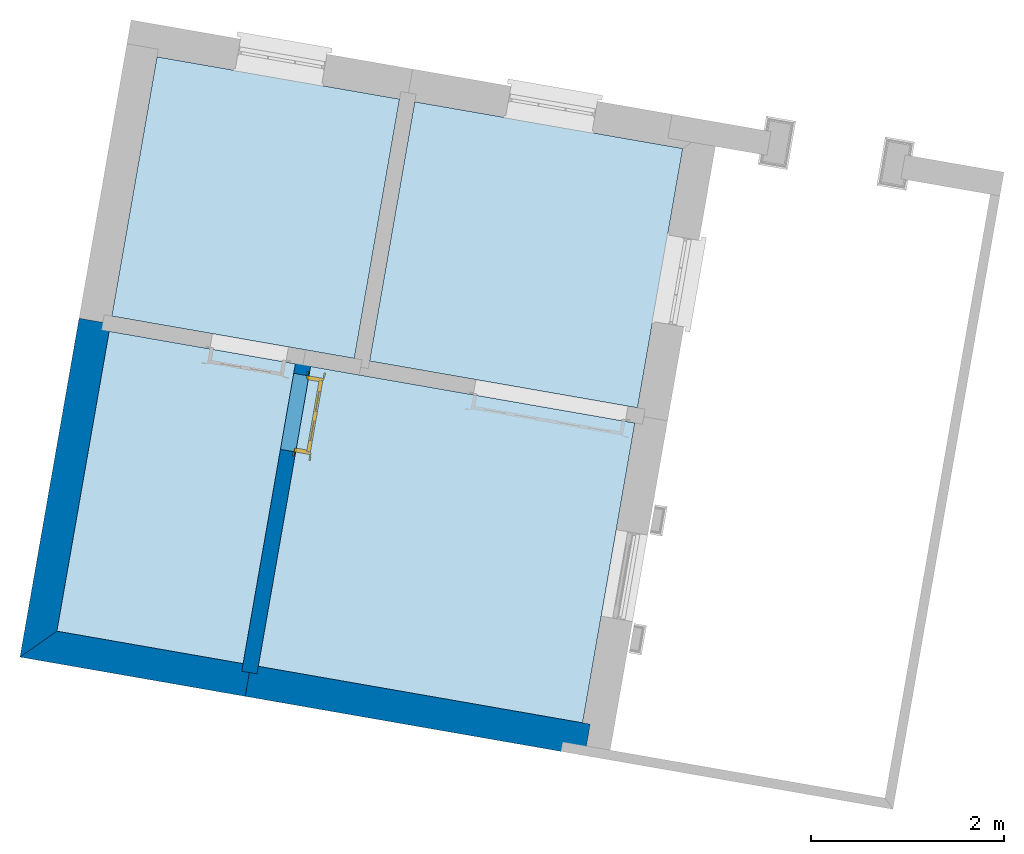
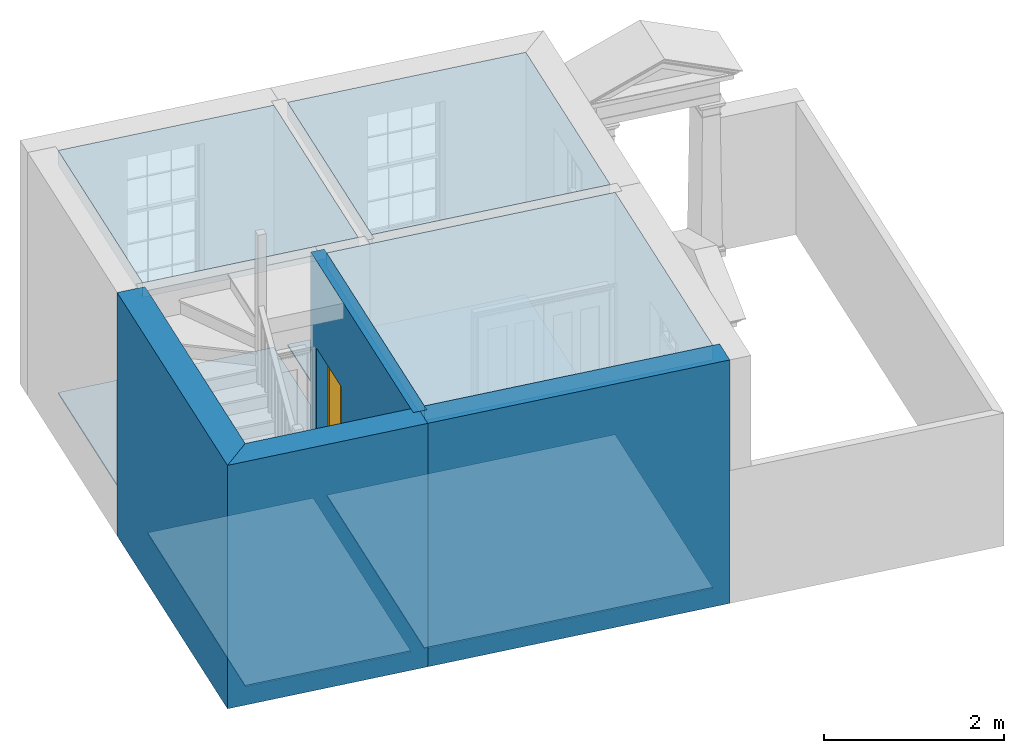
# One storey, part 1 of 6: 7 slabs, 4 walls, 1 door, 1 opening.
"""IFC4 building model written with IfcOpenShell, lengths in metres."""

from ifc_helpers import new_model, si_unit, frame, origin, origin_with_axes, place, context, subcontext, project, spatial, polyline, outline, extrude, faceted_brep, source, transform, mapped, material, layer, layer_set, layer_usage, type_object, type_shapes, element, fill, save


model = new_model("IFC4")

# Units and contexts
model_context = context("Model", 3, world=origin_with_axes())
body_context = subcontext(model_context, "Body", "Model", "MODEL_VIEW")
ifc_project = project(units=[si_unit("PLANEANGLEUNIT", "RADIAN"), si_unit("MASSUNIT", "GRAM", prefix="KILO"), si_unit("FORCEUNIT", "NEWTON", prefix="KILO"), si_unit("LENGTHUNIT", "METRE"), si_unit("AREAUNIT", "SQUARE_METRE"), si_unit("VOLUMEUNIT", "CUBIC_METRE")], contexts=[model_context, model_context])

# Sites, building, storey
site_1_placement = place(None, origin_with_axes())
site_1 = spatial("IfcSite", under=ifc_project, at=site_1_placement, Name="Tamar")
site_2_placement = place(site_1_placement, origin_with_axes())
site_2 = spatial("IfcSite", under=site_1, at=site_2_placement, Name="Site plot-27", CompositionType="ELEMENT")
building_placement = place(None, origin_with_axes())
building = spatial("IfcBuilding", under=site_2, at=building_placement, Name="Building plot-27", CompositionType="ELEMENT")
storey_placement = place(None, frame((0.0, 0.0, 26.0), z_axis=(0.0, 0.0, 1.0), x_axis=(1.0, 0.0, 0.0)))
storey = spatial("IfcBuildingStorey", under=building, at=storey_placement, Name="plot-27 0", CompositionType="ELEMENT", Elevation=26.0)

# Slabs
slab_1_placement = place(storey_placement, frame((297.107415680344, 271.453075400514, 3.1)))
element("IfcSlab", 1, at=slab_1_placement, inside=storey, Name="My Slab", ObjectType="Slab", PredefinedType="FLOOR", context=body_context, shape_type="SweptSolid", body=[
    extrude(outline(polyline([(0.0, 0.0), (-3.3601419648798, 0.585945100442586), (-3.90192639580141, -2.52095450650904), (-0.541784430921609, -3.10689960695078), (0.0, 0.0)])), origin_with_axes(), (0.0, 0.0, 1.0), 0.2),
])
slab_2_placement = place(storey_placement, frame((297.107415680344, 271.453075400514, 0.0)))
element("IfcSlab", 2, at=slab_2_placement, inside=storey, Name="My Slab", ObjectType="Slab", PredefinedType="FLOOR", context=body_context, shape_type="SweptSolid", body=[
    extrude(outline(polyline([(0.0, 0.0), (-3.3601419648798, 0.585945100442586), (-3.90192639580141, -2.52095450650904), (-0.541784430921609, -3.10689960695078), (0.0, 0.0)])), origin_with_axes(), (0.0, 0.0, 1.0), 0.02),
])
slab_3_placement = place(storey_placement, frame((297.603352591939, 274.297059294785, 3.1)))
element("IfcSlab", 3, at=slab_3_placement, inside=storey, Name="My Slab", ObjectType="Slab", PredefinedType="FLOOR", context=body_context, shape_type="SweptSolid", body=[
    extrude(outline(polyline([(0.0, 0.0), (-2.77679023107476, 0.484219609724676), (-3.24524095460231, -2.20214287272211), (-0.468450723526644, -2.68636248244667), (0.0, 0.0)])), origin_with_axes(), (0.0, 0.0, 1.0), 0.2),
])
slab_4_placement = place(storey_placement, frame((297.603352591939, 274.297059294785, 0.0)))
element("IfcSlab", 4, at=slab_4_placement, inside=storey, Name="My Slab", ObjectType="Slab", PredefinedType="FLOOR", context=body_context, shape_type="SweptSolid", body=[
    extrude(outline(polyline([(0.0, 0.0), (-2.77679023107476, 0.484219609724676), (-3.24524095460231, -2.20214287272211), (-0.468450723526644, -2.68636248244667), (0.0, 0.0)])), origin_with_axes(), (0.0, 0.0, 1.0), 0.02),
])
slab_5_placement = place(storey_placement, frame((294.66894094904, 274.808765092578, 3.1)))
element("IfcSlab", 5, at=slab_5_placement, inside=storey, Name="My Slab", ObjectType="Slab", PredefinedType="FLOOR", context=body_context, shape_type="SweptSolid", body=[
    extrude(outline(polyline([(0.0, 0.0), (-2.51306652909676, 0.438231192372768), (-2.98151725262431, -2.24813129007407), (-0.468450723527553, -2.68636248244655), (0.0, 0.0)])), origin_with_axes(), (0.0, 0.0, 1.0), 0.2),
])
slab_6_placement = place(storey_placement, frame((294.66894094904, 274.808765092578, 0.0)))
element("IfcSlab", 6, at=slab_6_placement, inside=storey, Name="My Slab", ObjectType="Slab", PredefinedType="FLOOR", context=body_context, shape_type="SweptSolid", body=[
    extrude(outline(polyline([(0.0, 0.0), (-2.51306652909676, 0.438231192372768), (-2.98151725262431, -2.24813129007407), (-0.468450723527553, -2.68636248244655), (0.0, 0.0)])), origin_with_axes(), (0.0, 0.0, 1.0), 0.02),
])
slab_7_placement = place(storey_placement, frame((293.58965230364, 272.066506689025, 0.0)))
element("IfcSlab", 7, at=slab_7_placement, inside=storey, Name="My Slab", ObjectType="Slab", PredefinedType="FLOOR", context=body_context, shape_type="SweptSolid", body=[
    extrude(outline(polyline([(0.0, 0.0), (-1.92971479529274, 0.336505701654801), (-2.47149922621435, -2.77039390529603), (-0.541784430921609, -3.10689960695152), (0.0, 0.0)])), origin_with_axes(), (0.0, 0.0, 1.0), 0.02),
])

# Walls
ifc_material_1 = material(Name="Masonry")
ifc_layer_1 = layer(ifc_material_1, 0.33, ventilated=False)
ifc_layer_set_1 = layer_set([ifc_layer_1], Name="party_0.08_0.25")
ifc_layer_usage_1 = layer_usage(ifc_layer_set_1, "AXIS2", "POSITIVE", -0.25)
wall_type_1 = type_object("IfcWallType", Name="party_0.08_0.25", PredefinedType="SOLIDWALL", material=ifc_layer_set_1)
wall_1_placement = place(storey_placement, frame((291.594869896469, 272.495566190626, 0.0), z_axis=(0.0, 0.0, 1.0), x_axis=(-0.171788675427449, -0.985133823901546, 0.0)))
element("IfcWall", 8, at=wall_1_placement, inside=storey, type_object=wall_type_1, material=ifc_layer_usage_1, Name="party", context=body_context, shape_type="SweptSolid", body=[
    extrude(outline(polyline([(2.7554362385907e-14, 0.0800000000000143), (-6.06028690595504e-14, -0.250000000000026), (3.5637843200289, -0.250000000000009), (3.23378432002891, 0.0799999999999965), (2.7554362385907e-14, 0.0800000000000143)])), origin_with_axes(), (0.0, 0.0, 1.0), 3.3),
])
wall_2_placement = place(storey_placement, frame((291.025599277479, 269.231045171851, 0.0), z_axis=(0.0, 0.0, 1.0), x_axis=(0.985133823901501, -0.171788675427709, 0.0)))
element("IfcWall", 9, at=wall_2_placement, inside=storey, type_object=wall_type_1, material=ifc_layer_usage_1, Name="party", context=body_context, shape_type="SweptSolid", body=[
    extrude(outline(polyline([(0.0799999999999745, 0.079999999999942), (-0.249999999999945, -0.250000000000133), (2.11883518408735, -0.250000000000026), (2.11883518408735, 0.0800000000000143), (0.0799999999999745, 0.079999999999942)])), origin_with_axes(), (0.0, 0.0, 1.0), 3.3),
])
wall_3_placement = place(storey_placement, frame((293.112935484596, 268.867053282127, 0.0), z_axis=(0.0, 0.0, 1.0), x_axis=(0.985133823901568, -0.171788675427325, 0.0)))
element("IfcWall", 10, at=wall_3_placement, inside=storey, type_object=wall_type_1, material=ifc_layer_usage_1, Name="party", context=body_context, shape_type="SweptSolid", body=[
    extrude(outline(polyline([(3.76814271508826e-14, 0.0800000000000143), (-9.21944352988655e-14, -0.250000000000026), (3.57084823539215, -0.250000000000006), (3.57084823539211, 0.0800000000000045), (3.76814271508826e-14, 0.0800000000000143)])), origin_with_axes(), (0.0, 0.0, 1.0), 3.3),
])

# Wall, opening, door
ifc_material_2 = material(Name="Masonry")
ifc_layer_2 = layer(ifc_material_2, 0.16, ventilated=False)
ifc_layer_set_2 = layer_set([ifc_layer_2], Name="interior_0.08_0.08")
ifc_layer_usage_2 = layer_usage(ifc_layer_set_2, "AXIS2", "POSITIVE", -0.08)
wall_type_2 = type_object("IfcWallType", Name="interior_0.08_0.08", PredefinedType="SOLIDWALL", material=ifc_layer_set_2)
wall_4_placement = place(storey_placement, frame((293.682206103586, 272.131574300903, 0.0), z_axis=(0.0, 0.0, 1.0), x_axis=(-0.171788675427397, -0.985133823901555, 0.0)))
wall_4 = element("IfcWall", 11, at=wall_4_placement, inside=storey, type_object=wall_type_2, material=ifc_layer_usage_2, Name="interior", context=body_context, shape_type="SweptSolid", body=[
    extrude(outline(polyline([(-2.41731487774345e-14, 0.0800000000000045), (2.41633516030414e-14, -0.0800000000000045), (3.31378432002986, -0.0800000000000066), (3.31378432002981, 0.0800000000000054), (-2.41731487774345e-14, 0.0800000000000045)])), origin_with_axes(), (0.0, 0.0, 1.0), 3.3),
])
opening_placement = place(wall_4_placement, frame((0.180000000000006, 0.0, 0.0199999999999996)))
opening = element("IfcOpeningElement", 12, at=opening_placement, cuts=wall_4, Name="My Opening", ObjectType="Opening", context=body_context, shape_type="SweptSolid", body=[
    extrude(outline(polyline([(0.0, -0.100000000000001), (0.800000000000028, -0.099999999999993), (0.800000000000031, 1.09999999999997), (2.74780198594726e-15, 1.09999999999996), (0.0, -0.100000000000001)])), origin_with_axes(), (0.0, 0.0, 1.0), 2.1),
])
door_type = type_object("IfcDoorType", Name="door_inside", OperationType="SINGLE_SWING_LEFT", PredefinedType="NOTDEFINED")
shared_shape = source(origin(), body_context, "Body", "Brep", [
    faceted_brep([(0.773, 0.33, 1.895), (0.66, 0.33, 1.895), (0.66, 0.33, 2.073), (0.773, 0.33, 2.073), (0.773, 0.33, 0.82), (0.66, 0.33, 0.82), (0.45, 0.33, 1.895), (0.45, 0.33, 2.073), (0.773, 0.33, 0.62), (0.66, 0.33, 0.62), (0.66, 0.315, 0.82), (0.66, 0.315, 1.895), (0.45, 0.315, 1.895), (0.35, 0.33, 1.895), (0.35, 0.33, 2.073), (0.773, 0.33, 0.225), (0.66, 0.33, 0.225), (0.45, 0.33, 0.62), (0.45, 0.33, 0.82), (0.45, 0.315, 0.82), (0.35, 0.33, 0.82), (0.14, 0.33, 2.073), (0.14, 0.33, 1.895), (0.773, 0.33, 0.0), (0.66, 0.33, 0.0), (0.66, 0.315, 0.225), (0.66, 0.315, 0.62), (0.45, 0.315, 0.62), (0.35, 0.33, 0.62), (0.35, 0.315, 0.82), (0.35, 0.315, 1.895), (0.14, 0.315, 1.895), (0.027, 0.33, 2.073), (0.027, 0.33, 1.895), (0.773, 0.292, 0.0), (0.66, 0.292, 0.0), (0.45, 0.33, 0.0), (0.45, 0.33, 0.225), (0.45, 0.315, 0.225), (0.35, 0.33, 0.225), (0.14, 0.33, 0.82), (0.14, 0.33, 0.62), (0.14, 0.315, 0.82), (0.027, 0.33, 0.82), (0.773, 0.292, 0.225), (0.66, 0.292, 0.225), (0.45, 0.292, 0.0), (0.35, 0.33, 0.0), (0.35, 0.315, 0.225), (0.35, 0.315, 0.62), (0.14, 0.315, 0.62), (0.027, 0.33, 0.62), (0.773, 0.292, 0.62), (0.66, 0.292, 0.62), (0.45, 0.292, 0.225), (0.35, 0.292, 0.0), (0.14, 0.33, 0.225), (0.14, 0.33, 0.0), (0.14, 0.315, 0.225), (0.027, 0.33, 0.225), (0.773, 0.292, 0.82), (0.66, 0.292, 0.82), (0.66, 0.307, 0.62), (0.66, 0.307, 0.225), (0.45, 0.307, 0.225), (0.35, 0.292, 0.225), (0.14, 0.292, 0.0), (0.027, 0.33, 0.0), (0.773, 0.292, 1.895), (0.66, 0.292, 1.895), (0.45, 0.292, 0.62), (0.45, 0.292, 0.82), (0.45, 0.307, 0.62), (0.35, 0.292, 0.62), (0.14, 0.292, 0.225), (0.027, 0.292, 0.0), (0.773, 0.292, 2.073), (0.66, 0.292, 2.073), (0.66, 0.307, 1.895), (0.66, 0.307, 0.82), (0.45, 0.307, 0.82), (0.35, 0.292, 0.82), (0.35, 0.307, 0.62), (0.35, 0.307, 0.225), (0.14, 0.307, 0.225), (0.027, 0.292, 0.225), (0.45, 0.292, 1.895), (0.45, 0.292, 2.073), (0.45, 0.307, 1.895), (0.35, 0.292, 1.895), (0.14, 0.292, 0.82), (0.14, 0.292, 0.62), (0.14, 0.307, 0.62), (0.027, 0.292, 0.62), (0.35, 0.292, 2.073), (0.35, 0.307, 1.895), (0.35, 0.307, 0.82), (0.14, 0.307, 0.82), (0.027, 0.292, 0.82), (0.14, 0.292, 2.073), (0.14, 0.292, 1.895), (0.14, 0.307, 1.895), (0.027, 0.292, 1.895), (0.027, 0.292, 2.073), (0.02, 0.335, 0.0), (0.005, 0.34, 0.0), (0.005, 0.34, 2.095), (0.02, 0.335, 2.08), (0.02, 0.33, 0.0), (0.0, 0.335, 0.0), (0.0, 0.335, 2.1), (0.795, 0.34, 2.095), (0.78, 0.335, 2.08), (0.02, 0.33, 2.08), (0.0, 0.33, 0.0), (-0.032, 0.345, 0.0), (-0.032, 0.345, 2.132), (0.8, 0.335, 2.1), (0.795, 0.34, 0.0), (0.78, 0.335, 0.0), (0.78, 0.33, 2.08), (0.04, 0.29, 0.0), (0.025, 0.29, 0.0), (0.025, 0.29, 2.075), (0.04, 0.29, 2.06), (-0.04, 0.34, 0.0), (-0.04, 0.34, 2.14), (0.832, 0.345, 2.132), (0.8, 0.335, 0.0), (0.78, 0.33, 0.0), (0.8, 0.33, 0.0), (0.86, 0.33, 0.0), (0.86, 0.33, 2.16), (0.8, 0.33, 2.1), (-0.06, 0.33, 2.16), (0.0, 0.33, 2.1), (-0.06, 0.33, 0.0), (-0.04, 0.345, 0.0), (-0.04, 0.345, 2.14), (0.84, 0.34, 2.14), (0.832, 0.345, 0.0), (0.84, 0.34, 0.0), (0.86, 0.345, 0.0), (0.86, 0.345, 2.16), (-0.06, 0.345, 2.16), (-0.06, 0.345, 0.0), (0.84, 0.345, 0.0), (0.84, 0.345, 2.14), (-0.025, 0.155, 0.0), (-0.025, 0.16, 0.0), (-0.025, 0.16, 2.125), (-0.025, 0.155, 2.125), (-0.017, 0.155, 0.0), (-0.017, 0.155, 2.117), (0.825, 0.16, 2.125), (0.825, 0.155, 2.125), (0.825, 0.155, 0.0), (0.845, 0.155, 0.0), (-0.045, 0.155, 2.145), (-0.045, 0.155, 0.0), (0.845, 0.155, 2.145), (0.015, 0.165, 0.0), (0.015, 0.165, 2.085), (0.817, 0.155, 2.117), (0.825, 0.16, 0.0), (0.845, 0.17, 0.0), (0.845, 0.17, 2.145), (-0.045, 0.17, 2.145), (-0.045, 0.17, 0.0), (0.02, 0.16, 0.0), (0.02, 0.16, 2.08), (0.785, 0.165, 2.085), (0.817, 0.155, 0.0), (0.8, 0.17, 0.0), (0.8, 0.17, 2.1), (0.0, 0.17, 2.1), (0.0, 0.17, 0.0), (0.035, 0.165, 0.0), (0.035, 0.165, 2.065), (0.78, 0.16, 2.08), (0.785, 0.165, 0.0), (0.775, 0.29, 2.075), (0.76, 0.29, 2.06), (0.035, 0.17, 2.065), (0.035, 0.17, 0.0), (0.765, 0.165, 2.065), (0.78, 0.16, 0.0), (0.765, 0.17, 0.0), (0.765, 0.17, 2.065), (0.765, 0.165, 0.0), (0.04, 0.17, 2.06), (0.04, 0.17, 0.0), (0.76, 0.17, 2.06), (0.76, 0.17, 0.0), (0.76, 0.29, 0.0), (0.775, 0.29, 0.0), (0.025, 0.33, 0.0), (0.025, 0.33, 2.075), (0.775, 0.33, 0.0), (0.775, 0.33, 2.075)], [[[0, 1, 2, 3]], [[1, 0, 4, 5]], [[1, 6, 7, 2]], [[8, 9, 5, 4]], [[1, 5, 10, 11]], [[6, 1, 11, 12]], [[6, 13, 14, 7]], [[15, 16, 9, 8]], [[9, 17, 18, 5]], [[5, 18, 19, 10]], [[10, 19, 12, 11]], [[18, 6, 12, 19]], [[18, 20, 13, 6]], [[21, 14, 13, 22]], [[23, 24, 16, 15]], [[9, 16, 25, 26]], [[17, 9, 26, 27]], [[17, 28, 20, 18]], [[13, 20, 29, 30]], [[22, 13, 30, 31]], [[32, 21, 22, 33]], [[34, 35, 24, 23]], [[24, 36, 37, 16]], [[16, 37, 38, 25]], [[25, 38, 27, 26]], [[37, 17, 27, 38]], [[37, 39, 28, 17]], [[40, 20, 28, 41]], [[20, 40, 42, 29]], [[31, 30, 29, 42]], [[40, 22, 31, 42]], [[33, 22, 40, 43]], [[35, 34, 44, 45]], [[35, 46, 36, 24]], [[36, 47, 39, 37]], [[28, 39, 48, 49]], [[41, 28, 49, 50]], [[43, 40, 41, 51]], [[45, 44, 52, 53]], [[46, 35, 45, 54]], [[46, 55, 47, 36]], [[56, 39, 47, 57]], [[39, 56, 58, 48]], [[50, 49, 48, 58]], [[56, 41, 50, 58]], [[51, 41, 56, 59]], [[53, 52, 60, 61]], [[45, 53, 62, 63]], [[54, 45, 63, 64]], [[55, 46, 54, 65]], [[55, 66, 57, 47]], [[59, 56, 57, 67]], [[61, 60, 68, 69]], [[70, 53, 61, 71]], [[53, 70, 72, 62]], [[72, 64, 63, 62]], [[70, 54, 64, 72]], [[65, 54, 70, 73]], [[65, 74, 66, 55]], [[67, 57, 66, 75]], [[69, 68, 76, 77]], [[61, 69, 78, 79]], [[71, 61, 79, 80]], [[73, 70, 71, 81]], [[65, 73, 82, 83]], [[74, 65, 83, 84]], [[74, 85, 75, 66]], [[86, 69, 77, 87]], [[69, 86, 88, 78]], [[88, 80, 79, 78]], [[86, 71, 80, 88]], [[81, 71, 86, 89]], [[73, 81, 90, 91]], [[73, 91, 92, 82]], [[83, 82, 92, 84]], [[91, 74, 84, 92]], [[91, 93, 85, 74]], [[89, 86, 87, 94]], [[81, 89, 95, 96]], [[90, 81, 96, 97]], [[90, 98, 93, 91]], [[94, 99, 100, 89]], [[89, 100, 101, 95]], [[101, 97, 96, 95]], [[100, 90, 97, 101]], [[100, 102, 98, 90]], [[99, 103, 102, 100]], [[32, 103, 99, 21]], [[102, 103, 32, 33]], [[98, 102, 33, 43]], [[21, 99, 94, 14]], [[94, 87, 7, 14]], [[7, 87, 77, 2]], [[76, 3, 2, 77]], [[43, 51, 93, 98]], [[51, 59, 85, 93]], [[67, 75, 85, 59]], [[34, 23, 15, 44]], [[44, 15, 8, 52]], [[52, 8, 4, 60]], [[0, 68, 60, 4]], [[0, 3, 76, 68]], [[104, 105, 106, 107]], [[104, 108, 109, 105]], [[105, 109, 110, 106]], [[107, 106, 111, 112]], [[107, 113, 108, 104]], [[114, 109, 108]], [[109, 115, 116, 110]], [[106, 110, 117, 111]], [[112, 111, 118, 119]], [[113, 107, 112, 120]], [[121, 122, 123, 124]], [[115, 109, 114, 125]], [[115, 125, 126, 116]], [[110, 116, 127, 117]], [[111, 117, 128, 118]], [[118, 128, 129, 119]], [[120, 112, 119, 129]], [[130, 129, 128]], [[130, 131, 132, 133]], [[133, 132, 134, 135]], [[135, 134, 136, 114]], [[136, 125, 114]], [[125, 137, 138, 126]], [[116, 126, 139, 127]], [[117, 127, 140, 128]], [[141, 130, 128, 140]], [[131, 130, 141]], [[131, 142, 143, 132]], [[132, 143, 144, 134]], [[134, 144, 145, 136]], [[137, 125, 136, 145]], [[143, 142, 146]], [[143, 146, 147]], [[137, 145, 144]], [[143, 147, 138]], [[138, 137, 144]], [[143, 138, 144]], [[126, 138, 147, 139]], [[127, 139, 141, 140]], [[142, 131, 141, 146]], [[139, 147, 146, 141]], [[148, 149, 150, 151]], [[149, 152, 153, 150]], [[151, 150, 154, 155]], [[155, 156, 157]], [[158, 159, 148]], [[158, 148, 151]], [[155, 157, 160]], [[158, 151, 155]], [[155, 160, 158]], [[152, 161, 162, 153]], [[150, 153, 163, 154]], [[155, 154, 164, 156]], [[156, 164, 165, 157]], [[157, 165, 166, 160]], [[160, 166, 167, 158]], [[158, 167, 168, 159]], [[161, 169, 170, 162]], [[153, 162, 171, 163]], [[154, 163, 172, 164]], [[165, 164, 173]], [[165, 173, 174, 166]], [[166, 174, 175, 167]], [[167, 175, 176, 168]], [[169, 177, 178, 170]], [[162, 170, 179, 171]], [[163, 171, 180, 172]], [[172, 180, 173, 164]], [[124, 123, 181, 182]], [[183, 178, 177, 184]], [[170, 178, 185, 179]], [[171, 179, 186, 180]], [[187, 173, 180]], [[185, 188, 187, 189]], [[188, 185, 178, 183]], [[179, 185, 189, 186]], [[189, 187, 180, 186]], [[190, 183, 184, 191]], [[192, 188, 183, 190]], [[191, 184, 122, 121]], [[124, 190, 191, 121]], [[193, 187, 188, 192]], [[182, 192, 190, 124]], [[184, 176, 122]], [[194, 195, 187, 193]], [[192, 182, 194, 193]], [[161, 176, 184]], [[114, 108, 122, 176]], [[173, 187, 195]], [[152, 149, 176, 161]], [[169, 161, 184, 177]], [[196, 122, 108]], [[176, 175, 135, 114]], [[173, 195, 129, 130]], [[176, 149, 168]], [[123, 122, 196, 197]], [[196, 108, 113, 197]], [[175, 174, 133, 135]], [[198, 129, 195]], [[133, 174, 173, 130]], [[159, 168, 149, 148]], [[181, 123, 197, 199]], [[197, 113, 120, 199]], [[199, 120, 129, 198]], [[195, 181, 199, 198]], [[195, 194, 182, 181]]]),
])
type_shapes(door_type, [shared_shape])
door_placement = place(storey_placement, frame((293.552770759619, 271.971429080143, 0.0199999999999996), z_axis=(0.0, 0.0, 1.0), x_axis=(-0.137430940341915, -0.788107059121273, 0.0)))
door = element("IfcDoor", 13, at=door_placement, inside=storey, type_object=door_type, Name="living inside door", OverallHeight=2.1, OverallWidth=0.8, context=body_context, shape_type="MappedRepresentation", body=[
    mapped(shared_shape, transform((0.0, 0.0, 0.0), scale=1.0)),
])
fill(opening, door)

save(model, "model.ifc")
